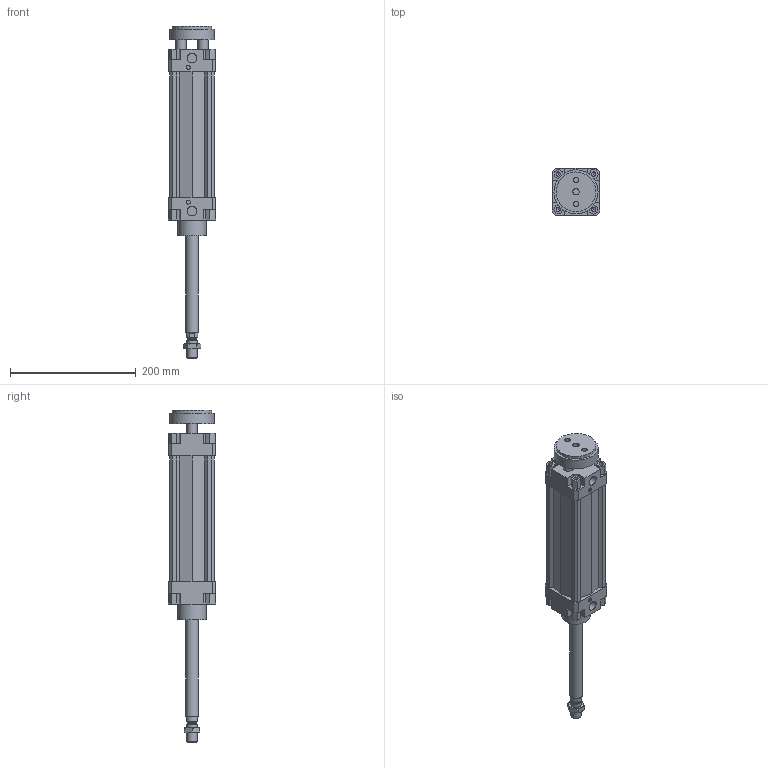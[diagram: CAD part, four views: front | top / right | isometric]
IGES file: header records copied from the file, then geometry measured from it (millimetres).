
Global section: file name: 132#_063_0150_02; native system: Autodesk Inventor 2014; preprocessor: unknown; author: A. Manieri; date: 20161006.155944; units: millimetre
Bounding box: 75 x 75 x 527 mm (x, y, z)
Volume: 1007901.2 mm3; surface area: 225443.7 mm2
Topology: 3 solids, 3 shells, 220 faces, 589 edges, 397 vertices
Faces by surface type: bspline 220
